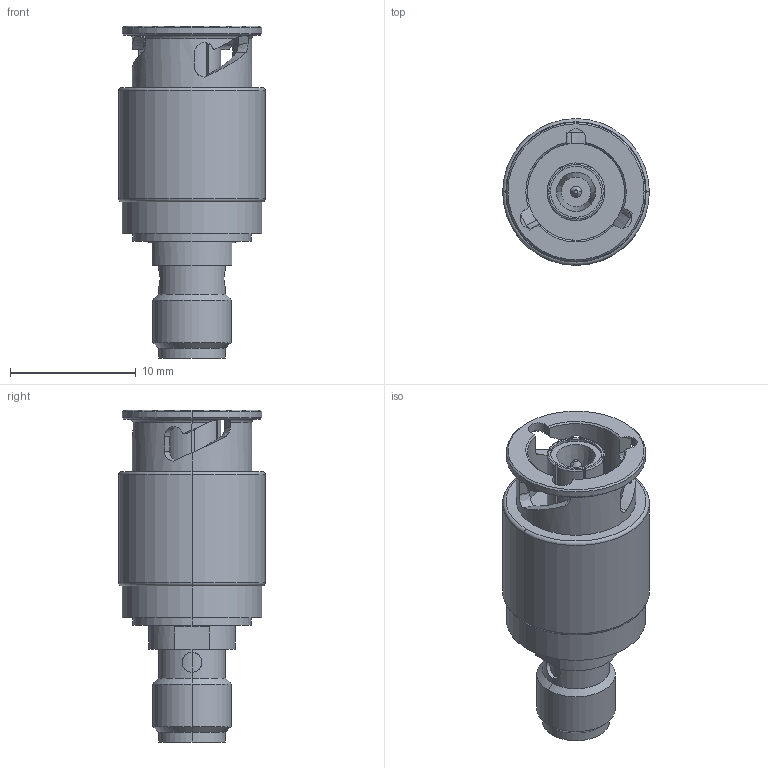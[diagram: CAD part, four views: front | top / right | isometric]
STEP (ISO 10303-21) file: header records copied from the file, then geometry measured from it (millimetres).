
FILE_DESCRIPTION (( 'STEP AP214' ), '1' );
FILE_NAME ('SF1122-6034.STEP', '2016-05-20T13:23:10', ( '' ), ( '' ), 'SwSTEP 2.0', 'SolidWorks 2015', '' );
FILE_SCHEMA (( 'AUTOMOTIVE_DESIGN' ));
Length unit declared in the file: inch
Products named in the file (1): SF1122-6034
Bounding box: 11.68 x 11.68 x 26.45 mm (x, y, z)
Volume: 1593.6 mm3; surface area: 1374.7 mm2
Topology: 1 solids, 1 shells, 161 faces, 419 edges, 266 vertices
Faces by surface type: cylinder 54, plane 51, bspline 24, cone 18, torus 14
Entity records: 7623 total; most frequent: CARTESIAN_POINT 1879, ORIENTED_EDGE 838, DIRECTION 735, EDGE_CURVE 419, AXIS2_PLACEMENT_3D 284, VERTEX_POINT 266, EDGE_LOOP 173, VECTOR 167
